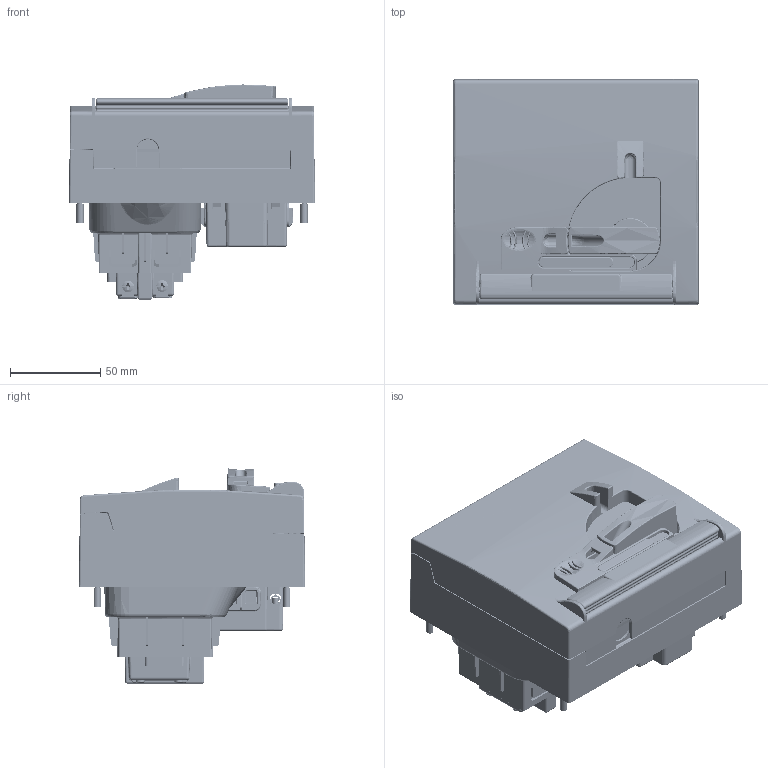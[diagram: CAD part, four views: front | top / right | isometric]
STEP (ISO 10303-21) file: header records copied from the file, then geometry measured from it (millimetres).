
FILE_DESCRIPTION(/* description */ (''),/* implementation_level */ '2;1');
FILE_NAME(/* name */ '4008527.stp',/* time_stamp */ '2020-12-23T08:26:48+01:00',/* author */ (''),/* organization */ (''),/* preprocessor_version */ 'ST-DEVELOPER v16.7',/* originating_system */ 'SIEMENS PLM Software NX 1946',/* authorisation */ '');
FILE_SCHEMA (('AUTOMOTIVE_DESIGN { 1 0 10303 214 3 1 1 1 }'));
Products named in the file (1): BSOM5CCC8272shgd
Bounding box: 136 x 125 x 119.04 mm (x, y, z)
Volume: 304349.1 mm3; surface area: 331025.1 mm2
Topology: 47 solids, 47 shells, 7320 faces, 19544 edges, 12177 vertices
Faces by surface type: plane 3696, cylinder 1833, bspline 843, cone 452, torus 266, sphere 207, revolution 13, extrusion 10
Full cylindrical faces by diameter (mm): 0.2 x1, 0.4 x1, 1.8 x2, 2.5 x4, 2.7 x1, 2.8 x5, 2.9 x3, 3 x11, 3.1 x8, 3.2 x3, 3.4 x2, 3.5 x9, 3.8 x2, 4 x7, 4.4 x4, 4.664 x1, 5.003 x1, 5.6 x1, 5.7 x2, 5.8 x2, 6.2 x2, 7 x4, 7.2 x4, 7.6 x4, 8.7 x4, 19.2 x1
Entity records: 254519 total; most frequent: CARTESIAN_POINT 78594, ORIENTED_EDGE 37780, DIRECTION 35010, EDGE_CURVE 18890, VERTEX_POINT 12026, AXIS2_PLACEMENT_3D 11953, VECTOR 11091, LINE 11081
